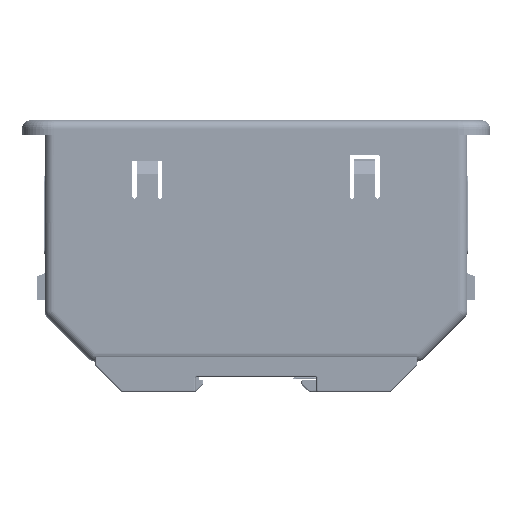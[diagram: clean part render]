
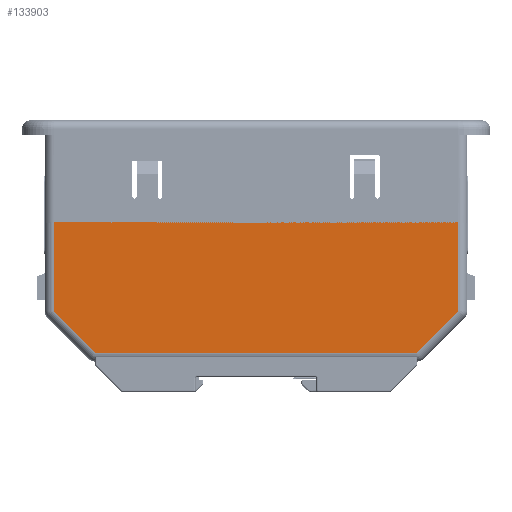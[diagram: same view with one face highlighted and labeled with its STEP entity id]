
A CAD part, left-side view. The second image highlights one B-rep face of the part: STEP entity #133903.
In plain terms, the highlighted planar face has unit normal (-1, 0, 0).
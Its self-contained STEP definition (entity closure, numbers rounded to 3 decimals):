
#7103 = CARTESIAN_POINT ( 'NONE',  ( -70., -67., -63.257 ) ) ;
#36550 = ORIENTED_EDGE ( 'NONE', *, *, #254290, .F. ) ;
#38950 = ORIENTED_EDGE ( 'NONE', *, *, #589611, .T. ) ;
#55419 = LINE ( 'NONE', #682777, #136542 ) ;
#56659 = LINE ( 'NONE', #463535, #258838 ) ;
#76451 = LINE ( 'NONE', #696443, #111892 ) ;
#93532 = CARTESIAN_POINT ( 'NONE',  ( -70., -53.257, -77. ) ) ;
#111892 = VECTOR ( 'NONE', #479636, 1000. ) ;
#115224 = ORIENTED_EDGE ( 'NONE', *, *, #273932, .T. ) ;
#118828 = DIRECTION ( 'NONE',  ( 0., -0.707, 0.707 ) ) ;
#123664 = VECTOR ( 'NONE', #152803, 1000. ) ;
#130884 = LINE ( 'NONE', #358568, #149136 ) ;
#133903 = ADVANCED_FACE ( 'NONE', ( #385202 ), #441236, .F. ) ;
#136542 = VECTOR ( 'NONE', #118828, 1000. ) ;
#149136 = VECTOR ( 'NONE', #162963, 1000. ) ;
#149934 = ORIENTED_EDGE ( 'NONE', *, *, #458965, .T. ) ;
#152803 = DIRECTION ( 'NONE',  ( 0., -1., 0. ) ) ;
#162963 = DIRECTION ( 'NONE',  ( 0., -1., 0. ) ) ;
#180751 = VERTEX_POINT ( 'NONE', #278691 ) ;
#216027 = VERTEX_POINT ( 'NONE', #7103 ) ;
#254290 = EDGE_CURVE ( 'NONE', #608461, #445292, #130884, .T. ) ;
#258838 = VECTOR ( 'NONE', #336719, 1000. ) ;
#265798 = CARTESIAN_POINT ( 'NONE',  ( -70., 39., -80. ) ) ;
#272008 = ORIENTED_EDGE ( 'NONE', *, *, #350558, .T. ) ;
#273932 = EDGE_CURVE ( 'NONE', #633952, #599197, #675482, .T. ) ;
#278691 = CARTESIAN_POINT ( 'NONE',  ( -70., 67., -63.257 ) ) ;
#333174 = CARTESIAN_POINT ( 'NONE',  ( -70., 67., -64.5 ) ) ;
#336719 = DIRECTION ( 'NONE',  ( 0., -0.707, -0.707 ) ) ;
#350558 = EDGE_CURVE ( 'NONE', #599197, #216027, #55419, .T. ) ;
#358568 = CARTESIAN_POINT ( 'NONE',  ( -70., 67., -33.8 ) ) ;
#385202 = FACE_OUTER_BOUND ( 'NONE', #714531, .T. ) ;
#394541 = CARTESIAN_POINT ( 'NONE',  ( -70., 67., -33.8 ) ) ;
#427972 = CARTESIAN_POINT ( 'NONE',  ( -70., -67., -33.8 ) ) ;
#441236 = PLANE ( 'NONE',  #554888 ) ;
#445292 = VERTEX_POINT ( 'NONE', #427972 ) ;
#458965 = EDGE_CURVE ( 'NONE', #608461, #180751, #732763, .T. ) ;
#463535 = CARTESIAN_POINT ( 'NONE',  ( -70., 44.629, -85.629 ) ) ;
#479636 = DIRECTION ( 'NONE',  ( 0., 0., 1. ) ) ;
#497583 = DIRECTION ( 'NONE',  ( 0., 0., -1. ) ) ;
#554888 = AXIS2_PLACEMENT_3D ( 'NONE', #265798, #676455, #669082 ) ;
#561122 = VECTOR ( 'NONE', #497583, 1000. ) ;
#579332 = CARTESIAN_POINT ( 'NONE',  ( -70., 53.257, -77. ) ) ;
#589611 = EDGE_CURVE ( 'NONE', #180751, #633952, #56659, .T. ) ;
#599197 = VERTEX_POINT ( 'NONE', #93532 ) ;
#608461 = VERTEX_POINT ( 'NONE', #394541 ) ;
#611506 = EDGE_CURVE ( 'NONE', #216027, #445292, #76451, .T. ) ;
#633952 = VERTEX_POINT ( 'NONE', #579332 ) ;
#669082 = DIRECTION ( 'NONE',  ( 0., -1., 0. ) ) ;
#675482 = LINE ( 'NONE', #727775, #123664 ) ;
#676455 = DIRECTION ( 'NONE',  ( 1., 0., 0. ) ) ;
#682777 = CARTESIAN_POINT ( 'NONE',  ( -70., -5.629, -124.629 ) ) ;
#696443 = CARTESIAN_POINT ( 'NONE',  ( -70., -67., -37. ) ) ;
#714531 = EDGE_LOOP ( 'NONE', ( #272008, #733075, #36550, #149934, #38950, #115224 ) ) ;
#727775 = CARTESIAN_POINT ( 'NONE',  ( -70., -54.5, -77. ) ) ;
#732763 = LINE ( 'NONE', #333174, #561122 ) ;
#733075 = ORIENTED_EDGE ( 'NONE', *, *, #611506, .T. ) ;
